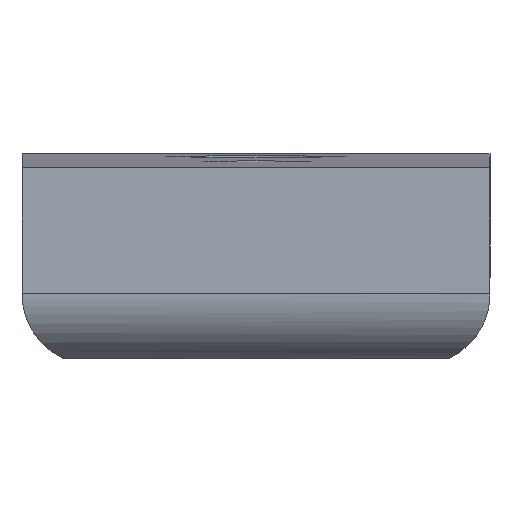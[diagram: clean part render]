
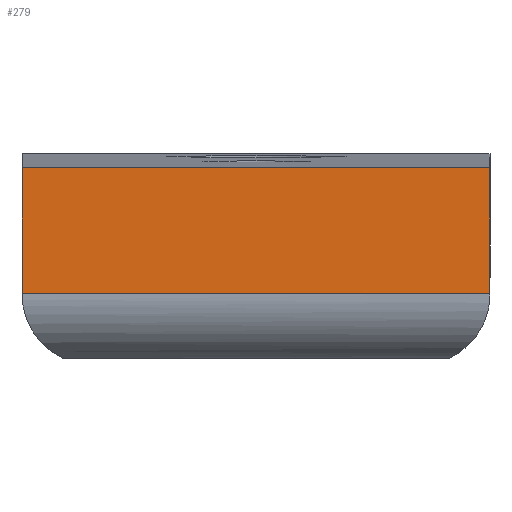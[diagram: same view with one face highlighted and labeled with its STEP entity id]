
A CAD part, left-side view. The second image highlights one B-rep face of the part: STEP entity #279.
In plain terms, the highlighted planar face has unit normal (-1, 0, 0).
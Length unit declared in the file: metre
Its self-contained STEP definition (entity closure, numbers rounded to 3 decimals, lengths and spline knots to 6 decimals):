
#13=PLANE('',#317);
#31=LINE('',#450,#52);
#38=LINE('',#489,#59);
#39=LINE('',#491,#60);
#40=LINE('',#493,#61);
#52=VECTOR('',#351,1.);
#59=VECTOR('',#376,1.);
#60=VECTOR('',#377,1.);
#61=VECTOR('',#378,1.);
#101=ORIENTED_EDGE('',*,*,#165,.F.);
#102=ORIENTED_EDGE('',*,*,#153,.T.);
#103=ORIENTED_EDGE('',*,*,#166,.T.);
#104=ORIENTED_EDGE('',*,*,#167,.F.);
#153=EDGE_CURVE('',#190,#189,#31,.F.);
#165=EDGE_CURVE('',#190,#196,#38,.T.);
#166=EDGE_CURVE('',#189,#197,#39,.T.);
#167=EDGE_CURVE('',#196,#197,#40,.T.);
#189=VERTEX_POINT('',#449);
#190=VERTEX_POINT('',#451);
#196=VERTEX_POINT('',#490);
#197=VERTEX_POINT('',#492);
#222=EDGE_LOOP('',(#101,#102,#103,#104));
#247=FACE_BOUND('',#222,.T.);
#279=ADVANCED_FACE('',(#247),#13,.F.);
#317=AXIS2_PLACEMENT_3D('',#488,#374,#375);
#351=DIRECTION('',(0.,1.,0.));
#374=DIRECTION('',(1.,0.,0.));
#375=DIRECTION('',(0.,0.,-1.));
#376=DIRECTION('',(0.,0.,1.));
#377=DIRECTION('',(0.,0.,1.));
#378=DIRECTION('',(0.,-1.,0.));
#449=CARTESIAN_POINT('',(-0.020562,0.,0.024883));
#450=CARTESIAN_POINT('',(-0.020562,0.013,0.024883));
#451=CARTESIAN_POINT('',(-0.020562,0.013,0.024883));
#488=CARTESIAN_POINT('',(-0.020562,0.013,0.));
#489=CARTESIAN_POINT('',(-0.020562,0.013,0.));
#490=CARTESIAN_POINT('',(-0.020562,0.013,0.02836));
#491=CARTESIAN_POINT('',(-0.020562,0.,0.));
#492=CARTESIAN_POINT('',(-0.020562,0.,0.02836));
#493=CARTESIAN_POINT('',(-0.020562,0.013,0.02836));
